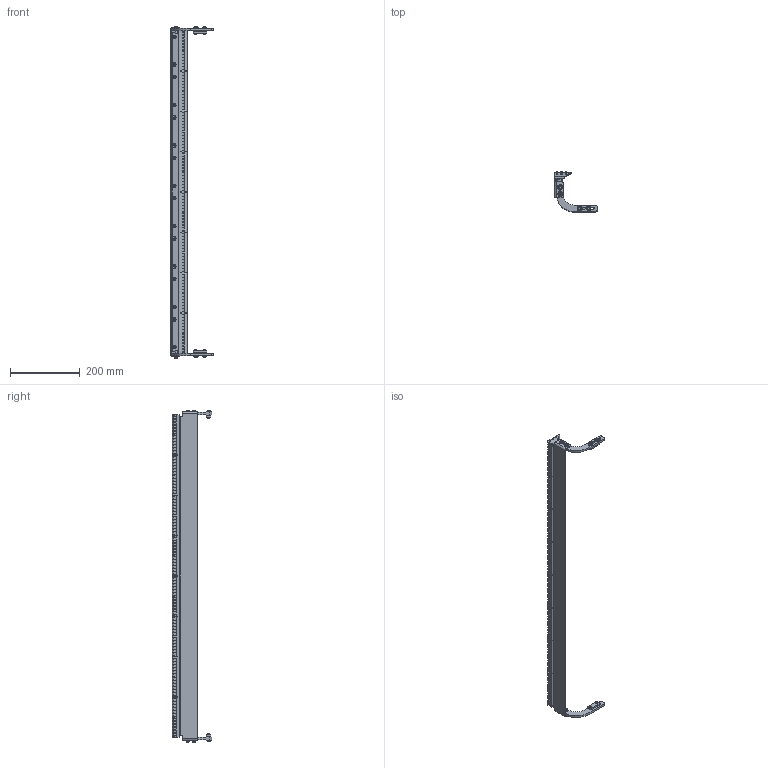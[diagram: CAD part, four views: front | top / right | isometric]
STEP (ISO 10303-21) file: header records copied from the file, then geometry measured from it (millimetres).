
FILE_DESCRIPTION((''),'2;1');
FILE_NAME('518355-36_ASM','2023-03-24T',('jenni.wallner'),(''),'PRO/ENGINEER BY PARAMETRIC TECHNOLOGY CORPORATION, 2012420','PRO/ENGINEER BY PARAMETRIC TECHNOLOGY CORPORATION, 2012420','');
FILE_SCHEMA(('CONFIG_CONTROL_DESIGN'));
Length unit declared in the file: inch
Products named in the file (44): 807-1830_5-1-SOLID1; 807-1830-1-SOLID1; 807-1830_19-1-SOLID1; 807-1830_21-1-SOLID1; 807-1830_11-1-SOLID1; 807-1830_27-1-SOLID1; 807-1830_9-1-SOLID1; 807-1830_17-1-SOLID1; 807-1830_2-1-SOLID1; 807-1830_15-1-SOLID1; 807-1830_36-1-SOLID1; 807-1830_18-1-SOLID1; 807-1830_35-1-SOLID1; 807-1830_29-1-SOLID1; 807-1830_7-1-SOLID1; 807-1830_23-1-SOLID1; 807-1830_14-1-SOLID1; 807-1830_16-1-SOLID1; 807-1830_6-1-SOLID1; 807-1830_22-1-SOLID1; 807-1830_20-1-SOLID1; 807-1830_31-1-SOLID1; 807-1830_10-1-SOLID1; 807-1830_25-1-SOLID1; 807-1830_24-1-SOLID1; 807-1830_32-1-SOLID1; 807-1830_33-1-SOLID1; 807-1830_13-1-SOLID1; 807-1830_3-1-SOLID1; 807-1830_8-1-SOLID1; 807-1830_26-1-SOLID1; 807-1830_4-1-SOLID1; 807-1830_30-1-SOLID1; 807-1830_34-1-SOLID1; 807-1830_1-1-SOLID1; 807-1830_12-1-SOLID1; 807-1830_28-1-SOLID1; 807-1830_ASM; 960616MSSF; 532387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
Assembly tree (59 placements, depth 4):
  518355-36_ASM
    ASM0001_ASM
      807-1830_ASM  x8
        807-1830_5-1-SOLID1
        807-1830-1-SOLID1
        807-1830_19-1-SOLID1
        807-1830_21-1-SOLID1
        807-1830_11-1-SOLID1
        807-1830_27-1-SOLID1
        807-1830_9-1-SOLID1
        807-1830_17-1-SOLID1
        807-1830_2-1-SOLID1
        807-1830_15-1-SOLID1
        807-1830_36-1-SOLID1
        807-1830_18-1-SOLID1
        807-1830_35-1-SOLID1
        807-1830_29-1-SOLID1
        807-1830_7-1-SOLID1
        807-1830_23-1-SOLID1
        807-1830_14-1-SOLID1
        807-1830_16-1-SOLID1
        807-1830_6-1-SOLID1
        807-1830_22-1-SOLID1
        807-1830_20-1-SOLID1
        807-1830_31-1-SOLID1
        807-1830_10-1-SOLID1
        807-1830_25-1-SOLID1
        807-1830_24-1-SOLID1
        807-1830_32-1-SOLID1
        807-1830_33-1-SOLID1
        807-1830_13-1-SOLID1
        807-1830_3-1-SOLID1
        807-1830_8-1-SOLID1
        807-1830_26-1-SOLID1
        807-1830_4-1-SOLID1
        807-1830_30-1-SOLID1
        807-1830_34-1-SOLID1
        807-1830_1-1-SOLID1
        807-1830_12-1-SOLID1
        807-1830_28-1-SOLID1
      960616MSSF  x8
      532387  x2
      518353-WW_518353-36
      520309  x2
Bounding box: 122.82 x 114.68 x 952.92 mm (x, y, z)
Volume: 711837.7 mm3; surface area: 431387.2 mm2
Topology: 309 solids, 309 shells, 1990 faces, 3884 edges, 2568 vertices
Faces by surface type: plane 992, cylinder 934, cone 64
Entity records: 11652 total; most frequent: DIRECTION 2228, CARTESIAN_POINT 1902, ORIENTED_EDGE 1596, AXIS2_PLACEMENT_3D 916, EDGE_CURVE 798, VERTEX_POINT 528, EDGE_LOOP 434, VECTOR 396
